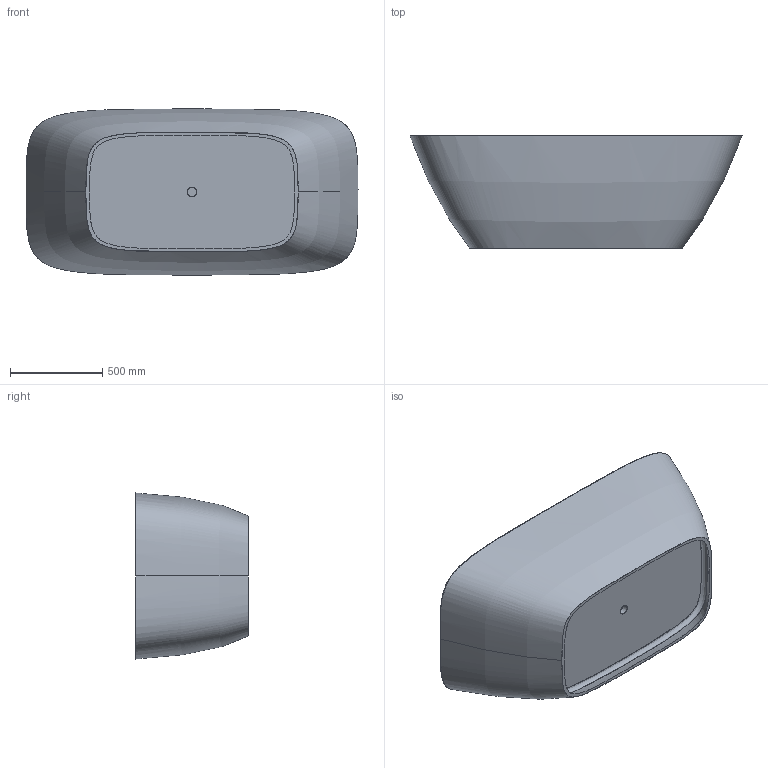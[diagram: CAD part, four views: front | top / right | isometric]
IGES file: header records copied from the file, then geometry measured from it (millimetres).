
Start section: SolidWorks IGES file using analytic representation for surfaces
Global section: file name: D:\Users\M.Szymanski\Desktop\Wanny\LaSenia\03. do przegrania\WP_LaSENIA_90x180.IGS; native system: SolidWorks 2011; preprocessor: SolidWorks 2011; author: M.Szymanski; date: 180522.120132; units: millimetre
Bounding box: 1799.51 x 610 x 899.91 mm (x, y, z)
Surface area: 6847330.2 mm2 (no closed solid volume)
Topology: 0 solids, 0 shells, 54 faces, 1875 edges, 1874 vertices
Faces by surface type: bspline 42, revolution 12
